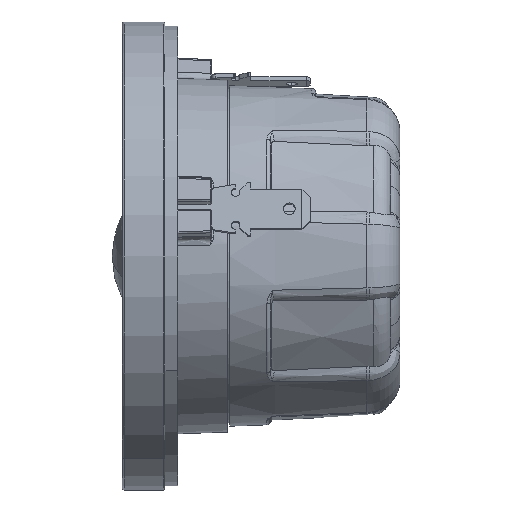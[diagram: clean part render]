
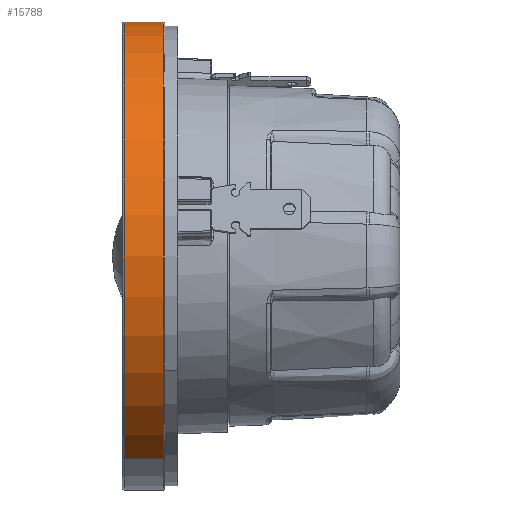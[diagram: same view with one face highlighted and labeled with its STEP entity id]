
A CAD part, left-side view. The second image highlights one B-rep face of the part: STEP entity #15788.
In plain terms, the highlighted cylindrical face has radius 27.5 mm (diameter 55 mm), a partial arc.
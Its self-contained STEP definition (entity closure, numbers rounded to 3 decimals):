
#169 = ORIENTED_EDGE ( 'NONE', *, *, #2606, .T. ) ;
#385 = CARTESIAN_POINT ( 'NONE',  ( 0., 18.6, 0. ) ) ;
#444 = ORIENTED_EDGE ( 'NONE', *, *, #3642, .F. ) ;
#661 = DIRECTION ( 'NONE',  ( 0., -1., 0. ) ) ;
#760 = VECTOR ( 'NONE', #2391, 1000. ) ;
#2146 = ORIENTED_EDGE ( 'NONE', *, *, #11317, .T. ) ;
#2200 = VERTEX_POINT ( 'NONE', #9829 ) ;
#2391 = DIRECTION ( 'NONE',  ( 0., -1., 0. ) ) ;
#2606 = EDGE_CURVE ( 'NONE', #8957, #2200, #17159, .T. ) ;
#3464 = DIRECTION ( 'NONE',  ( -0.5, 0., -0.866 ) ) ;
#3642 = EDGE_CURVE ( 'NONE', #8957, #17135, #8602, .T. ) ;
#3710 = DIRECTION ( 'NONE',  ( -0.5, 0., -0.866 ) ) ;
#4279 = AXIS2_PLACEMENT_3D ( 'NONE', #12695, #5168, #3710 ) ;
#5168 = DIRECTION ( 'NONE',  ( 0., 1., 0. ) ) ;
#5308 = CARTESIAN_POINT ( 'NONE',  ( -13.75, 14.5, -23.816 ) ) ;
#5819 = CYLINDRICAL_SURFACE ( 'NONE', #11931, 27.5 ) ;
#7447 = EDGE_LOOP ( 'NONE', ( #444, #169, #14108, #2146 ) ) ;
#7756 = CIRCLE ( 'NONE', #4279, 27.5 ) ;
#7764 = CARTESIAN_POINT ( 'NONE',  ( 13.75, 14., 23.816 ) ) ;
#7819 = FACE_OUTER_BOUND ( 'NONE', #7447, .T. ) ;
#8513 = CARTESIAN_POINT ( 'NONE',  ( 13.75, 14.5, 23.816 ) ) ;
#8602 = LINE ( 'NONE', #8513, #760 ) ;
#8957 = VERTEX_POINT ( 'NONE', #15442 ) ;
#9475 = VERTEX_POINT ( 'NONE', #17975 ) ;
#9829 = CARTESIAN_POINT ( 'NONE',  ( -13.75, 18.6, -23.816 ) ) ;
#11317 = EDGE_CURVE ( 'NONE', #9475, #17135, #7756, .T. ) ;
#11931 = AXIS2_PLACEMENT_3D ( 'NONE', #17891, #14133, #3464 ) ;
#12695 = CARTESIAN_POINT ( 'NONE',  ( 0., 14., 0. ) ) ;
#14108 = ORIENTED_EDGE ( 'NONE', *, *, #16811, .T. ) ;
#14133 = DIRECTION ( 'NONE',  ( 0., -1., 0. ) ) ;
#15214 = DIRECTION ( 'NONE',  ( 0.5, 0., 0.866 ) ) ;
#15442 = CARTESIAN_POINT ( 'NONE',  ( 13.75, 18.6, 23.816 ) ) ;
#15788 = ADVANCED_FACE ( 'NONE', ( #7819 ), #5819, .T. ) ;
#16067 = VECTOR ( 'NONE', #661, 1000. ) ;
#16357 = DIRECTION ( 'NONE',  ( 0., -1., 0. ) ) ;
#16811 = EDGE_CURVE ( 'NONE', #2200, #9475, #17461, .T. ) ;
#17135 = VERTEX_POINT ( 'NONE', #7764 ) ;
#17159 = CIRCLE ( 'NONE', #17755, 27.5 ) ;
#17461 = LINE ( 'NONE', #5308, #16067 ) ;
#17755 = AXIS2_PLACEMENT_3D ( 'NONE', #385, #16357, #15214 ) ;
#17891 = CARTESIAN_POINT ( 'NONE',  ( 0., 14.5, 0. ) ) ;
#17975 = CARTESIAN_POINT ( 'NONE',  ( -13.75, 14., -23.816 ) ) ;
